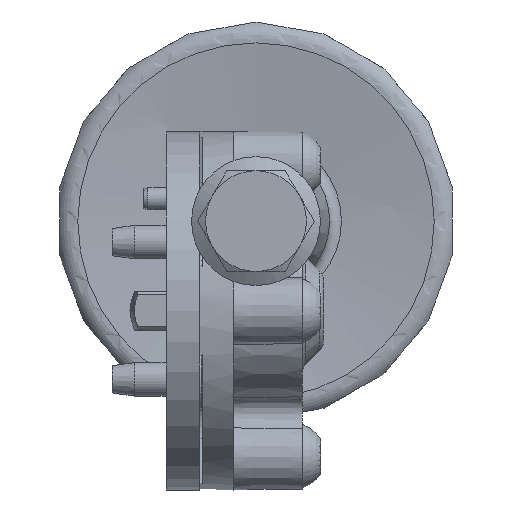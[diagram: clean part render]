
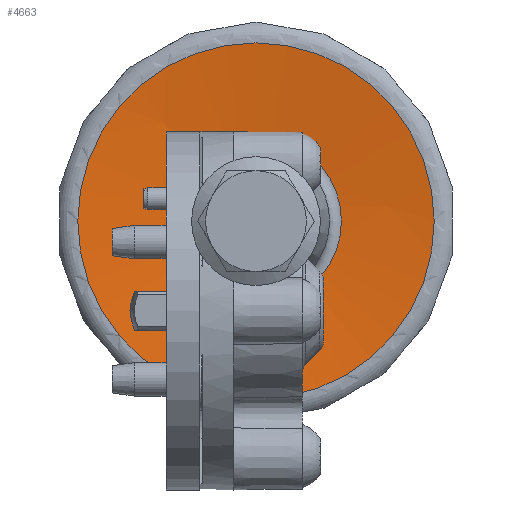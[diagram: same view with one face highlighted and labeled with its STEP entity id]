
A CAD part, front view. The second image highlights one B-rep face of the part: STEP entity #4663.
In plain terms, the highlighted spherical face has radius 100 mm.
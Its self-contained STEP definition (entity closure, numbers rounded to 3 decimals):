
#64=SPHERICAL_SURFACE('',#5217,100.);
#335=FACE_BOUND('',#1284,.T.);
#545=CIRCLE('',#5216,15.906);
#546=CIRCLE('',#5218,7.628);
#916=FACE_OUTER_BOUND('',#1283,.T.);
#1283=EDGE_LOOP('',(#4071));
#1284=EDGE_LOOP('',(#4072));
#2279=VERTEX_POINT('',#8593);
#2280=VERTEX_POINT('',#8596);
#2890=EDGE_CURVE('',#2279,#2279,#545,.T.);
#2891=EDGE_CURVE('',#2280,#2280,#546,.T.);
#4071=ORIENTED_EDGE('',*,*,#2890,.T.);
#4072=ORIENTED_EDGE('',*,*,#2891,.F.);
#4663=ADVANCED_FACE('',(#916,#335),#64,.F.);
#5216=AXIS2_PLACEMENT_3D('',#8594,#6475,#6476);
#5217=AXIS2_PLACEMENT_3D('',#8595,#6477,#6478);
#5218=AXIS2_PLACEMENT_3D('',#8597,#6479,#6480);
#6475=DIRECTION('center_axis',(-1.,0.,0.));
#6476=DIRECTION('ref_axis',(0.,0.,1.));
#6477=DIRECTION('center_axis',(0.,0.,1.));
#6478=DIRECTION('ref_axis',(1.,0.,0.));
#6479=DIRECTION('center_axis',(-1.,0.,0.));
#6480=DIRECTION('ref_axis',(0.,0.,1.));
#8593=CARTESIAN_POINT('',(8.727,0.,15.906));
#8594=CARTESIAN_POINT('Origin',(8.727,0.,0.));
#8595=CARTESIAN_POINT('Origin',(-90.,0.,0.));
#8596=CARTESIAN_POINT('',(9.709,0.,7.628));
#8597=CARTESIAN_POINT('Origin',(9.709,0.,0.));
